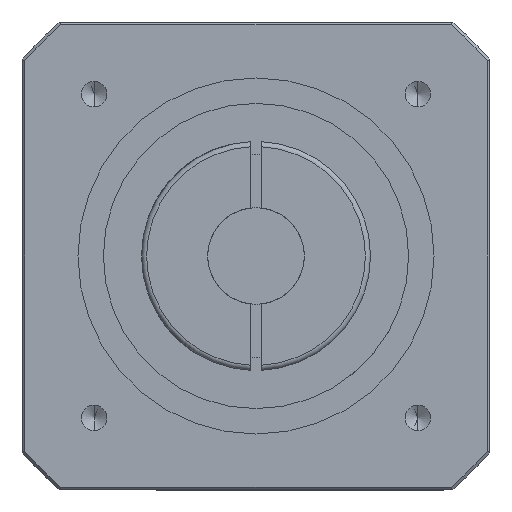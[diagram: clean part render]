
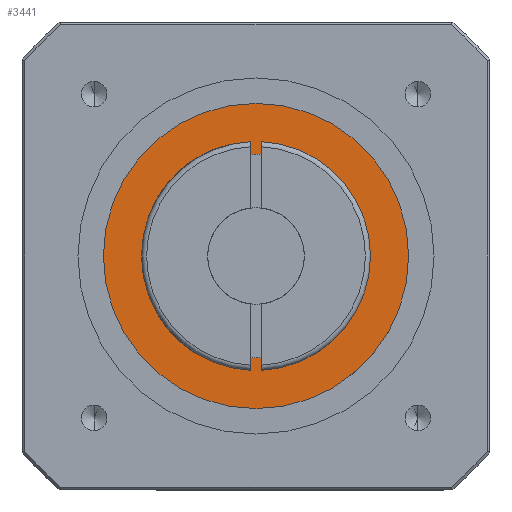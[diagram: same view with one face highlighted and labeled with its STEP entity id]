
A CAD part, front view. The second image highlights one B-rep face of the part: STEP entity #3441.
In plain terms, the highlighted planar face has unit normal (0, -1, 0).
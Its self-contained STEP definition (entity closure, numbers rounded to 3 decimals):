
#370 = CARTESIAN_POINT ( 'NONE',  ( 0., -37.5, 0. ) ) ;
#371 = DIRECTION ( 'NONE',  ( 0., 1., 0. ) ) ;
#372 = DIRECTION ( 'NONE',  ( 0., 0., 1. ) ) ;
#384 = CARTESIAN_POINT ( 'NONE',  ( 0., -37.5, 0. ) ) ;
#385 = DIRECTION ( 'NONE',  ( 0., -1., 0. ) ) ;
#386 = DIRECTION ( 'NONE',  ( 0., 0., -1. ) ) ;
#1366 = FACE_BOUND ( 'NONE', #4566, .T. ) ;
#1369 = FACE_OUTER_BOUND ( 'NONE', #4640, .T. ) ;
#1449 = CIRCLE ( 'NONE', #1685, 30. ) ;
#1451 = CIRCLE ( 'NONE', #1686, 20. ) ;
#1685 = AXIS2_PLACEMENT_3D ( 'NONE', #3522, #3520, #3519 ) ;
#1686 = AXIS2_PLACEMENT_3D ( 'NONE', #3512, #3510, #3472 ) ;
#1912 = CARTESIAN_POINT ( 'NONE',  ( 0., -37.5, 20. ) ) ;
#1915 = CARTESIAN_POINT ( 'NONE',  ( 0., -37.5, 30. ) ) ;
#1924 = CARTESIAN_POINT ( 'NONE',  ( 0., -37.5, -30. ) ) ;
#1941 = CARTESIAN_POINT ( 'NONE',  ( 0., -37.5, -20. ) ) ;
#3336 = CIRCLE ( 'NONE', #3779, 20. ) ;
#3357 = CIRCLE ( 'NONE', #3782, 30. ) ;
#3441 = ADVANCED_FACE ( 'NONE', ( #1369, #1366 ), #6891, .T. ) ;
#3472 = DIRECTION ( 'NONE',  ( 0., 0., 1. ) ) ;
#3510 = DIRECTION ( 'NONE',  ( 0., 1., 0. ) ) ;
#3512 = CARTESIAN_POINT ( 'NONE',  ( 0., -37.5, 0. ) ) ;
#3519 = DIRECTION ( 'NONE',  ( 0., 0., -1. ) ) ;
#3520 = DIRECTION ( 'NONE',  ( 0., -1., 0. ) ) ;
#3522 = CARTESIAN_POINT ( 'NONE',  ( 0., -37.5, 0. ) ) ;
#3779 = AXIS2_PLACEMENT_3D ( 'NONE', #370, #371, #372 ) ;
#3782 = AXIS2_PLACEMENT_3D ( 'NONE', #384, #385, #386 ) ;
#3864 = EDGE_CURVE ( 'NONE', #4955, #4943, #1449, .T. ) ;
#3865 = EDGE_CURVE ( 'NONE', #4972, #4942, #1451, .T. ) ;
#4025 = AXIS2_PLACEMENT_3D ( 'NONE', #6856, #6825, #6831 ) ;
#4566 = EDGE_LOOP ( 'NONE', ( #5123, #5124 ) ) ;
#4640 = EDGE_LOOP ( 'NONE', ( #5121, #5122 ) ) ;
#4942 = VERTEX_POINT ( 'NONE', #1912 ) ;
#4943 = VERTEX_POINT ( 'NONE', #1915 ) ;
#4955 = VERTEX_POINT ( 'NONE', #1924 ) ;
#4972 = VERTEX_POINT ( 'NONE', #1941 ) ;
#5121 = ORIENTED_EDGE ( 'NONE', *, *, #3864, .T. ) ;
#5122 = ORIENTED_EDGE ( 'NONE', *, *, #7289, .T. ) ;
#5123 = ORIENTED_EDGE ( 'NONE', *, *, #7283, .T. ) ;
#5124 = ORIENTED_EDGE ( 'NONE', *, *, #3865, .T. ) ;
#6825 = DIRECTION ( 'NONE',  ( 0., -1., 0. ) ) ;
#6831 = DIRECTION ( 'NONE',  ( 0., 0., -1. ) ) ;
#6856 = CARTESIAN_POINT ( 'NONE',  ( 0., -37.5, 0. ) ) ;
#6891 = PLANE ( 'NONE',  #4025 ) ;
#7283 = EDGE_CURVE ( 'NONE', #4942, #4972, #3336, .T. ) ;
#7289 = EDGE_CURVE ( 'NONE', #4943, #4955, #3357, .T. ) ;
